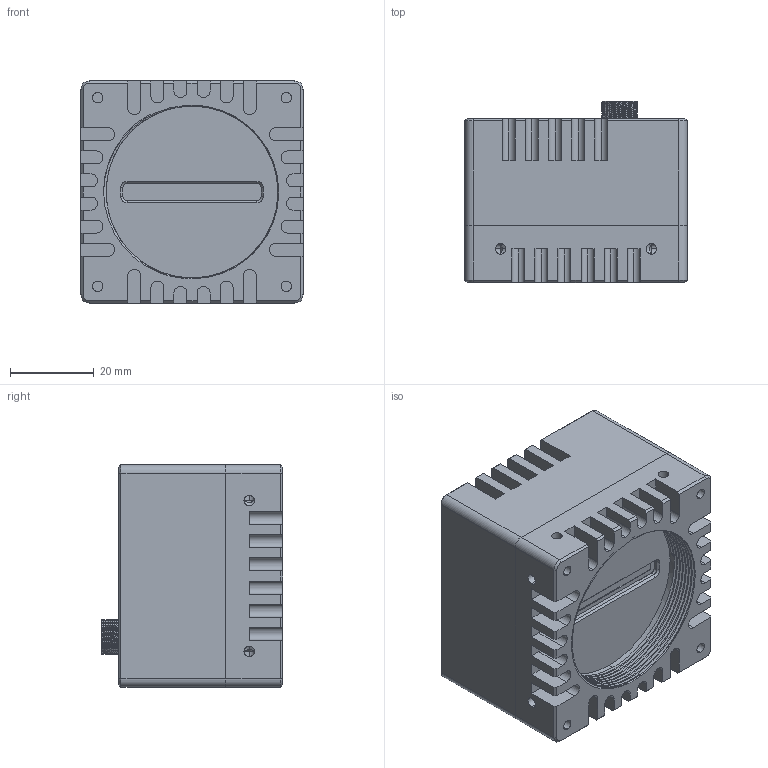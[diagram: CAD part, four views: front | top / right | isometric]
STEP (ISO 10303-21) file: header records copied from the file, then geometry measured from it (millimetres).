
FILE_DESCRIPTION (( 'STEP AP203' ), '1' );
FILE_NAME ('S250003-000.STEP', '2025-02-27T04:50:50', ( '' ), ( '' ), 'SwSTEP 2.0', 'SolidWorks 2022', '' );
FILE_SCHEMA (( 'CONFIG_CONTROL_DESIGN' ));
Length unit declared in the file: millimetre
Products named in the file (12): S250003-001; S250003-003; S250003-002; MG45-002-AS-02; S250003-C01; CNT14-01PZ08SPZGD; MG45-002-AS-01; MJ88C-BX11-HPLX; GB_FASTENER_SCREWS_HSHCS M3X30-N_GB_FASTENER_SCREWS_HSHCS M3X30-N; MG45-002; MG45-002-AS-03; S250003-000
Assembly tree (14 placements, depth 3):
  S250003-000
    S250003-001
    S250003-002
    S250003-003
    S250003-C01
    GB_FASTENER_SCREWS_HSHCS M3X30-N_GB_FASTENER_SCREWS_HSHCS M3X30-N  x4
    MG45-002
      MG45-002-AS-01
      MG45-002-AS-02
      MG45-002-AS-03
      CNT14-01PZ08SPZGD
      MJ88C-BX11-HPLX
Bounding box: 53 x 43.3 x 53 mm (x, y, z)
Volume: 65388.6 mm3; surface area: 56921.8 mm2
Topology: 394 solids, 394 shells, 4641 faces, 11361 edges, 7465 vertices
Faces by surface type: plane 3666, cylinder 645, bspline 187, cone 133, torus 8, sphere 2
Entity records: 151382 total; most frequent: CARTESIAN_POINT 43679, ORIENTED_EDGE 22346, DIRECTION 20246, EDGE_CURVE 11173, VECTOR 9152, LINE 9152, VERTEX_POINT 7364, AXIS2_PLACEMENT_3D 5547
